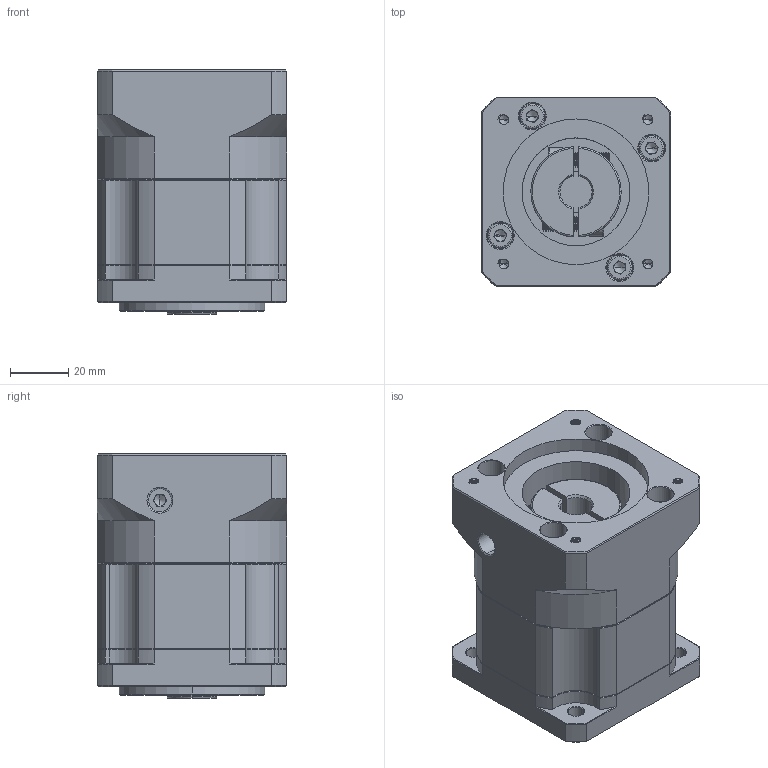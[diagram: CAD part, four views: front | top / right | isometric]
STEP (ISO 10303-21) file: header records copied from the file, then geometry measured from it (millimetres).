
FILE_DESCRIPTION (( 'STEP AP214' ), '1' );
FILE_NAME ('ZB60-K10-L1-11-50-70-M4.STEP', '2022-04-17T07:30:42', ( '' ), ( 'Microsoft' ), 'SwSTEP 2.0', 'SolidWorks 2016', '' );
FILE_SCHEMA (( 'AUTOMOTIVE_DESIGN' ));
Length unit declared in the file: millimetre
Products named in the file (1): ZB60-K10-L1-11-50-70-M4
Bounding box: 65 x 65 x 84 mm (x, y, z)
Volume: 262571.8 mm3; surface area: 53567.3 mm2
Topology: 6 solids, 6 shells, 1821 faces, 4831 edges, 3096 vertices
Faces by surface type: plane 876, cylinder 342, bspline 292, cone 277, torus 34
Entity records: 92969 total; most frequent: CARTESIAN_POINT 29823, ORIENTED_EDGE 9606, DIRECTION 7955, EDGE_CURVE 4803, VERTEX_POINT 3096, LINE 2959, VECTOR 2959, AXIS2_PLACEMENT_3D 2498
